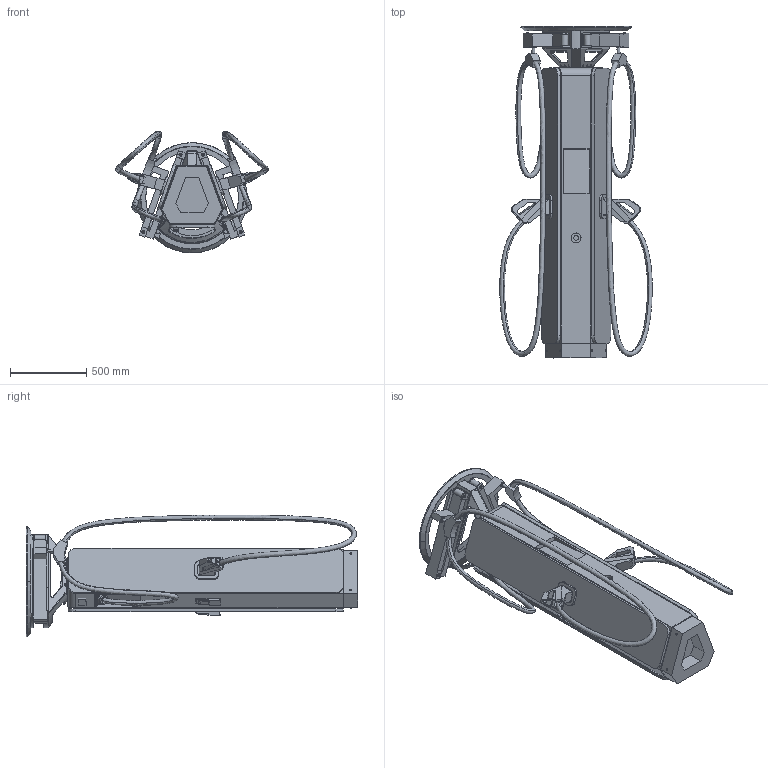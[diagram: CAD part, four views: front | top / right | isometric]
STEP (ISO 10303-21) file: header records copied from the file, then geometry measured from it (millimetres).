
FILE_DESCRIPTION((''),'2;1');
FILE_NAME('1758692950430_ASM','2025-09-24T11:19:33',('SESA617601'),('Schneider-Electric'),'CREO PARAMETRIC BY PTC INC, 2022484','CREO PARAMETRIC BY PTC INC, 2022484','');
FILE_SCHEMA(('AP242_MANAGED_MODEL_BASED_3D_ENGINEERING_MIM_LF { 1 0 10303 442 1 1 4 }'));
Products named in the file (18): EMPTYNODE_1758692950501_ASM; DP-15480; AJGFAS; DISPENSER-DC-720-3D_ASM; BREP_91_2; PRT0003_1; A000-586761_1_2_ASM_1_ASM; DISPENSER-5M-CABLE-3D_ASM; HANDLE-DC-3D; HANDLE-DC-3D_ASM; DP-3D; AJG; AJGFAS-3D; DISPENSER-TOP-5M-3D_ASM; DP-CABLE-3D; AJGFAS16LOCK; DISPENSER-TOP-CABLE-3D_ASM; 1758692950430_ASM
Assembly tree (46 placements, depth 4):
  1758692950430_ASM
    EMPTYNODE_1758692950501_ASM
    DISPENSER-DC-720-3D_ASM
      DP-15480
      AJGFAS  x6
    DISPENSER-5M-CABLE-3D_ASM
      A000-586761_1_2_ASM_1_ASM
        BREP_91_2
        PRT0003_1
    HANDLE-DC-3D_ASM  x2
      HANDLE-DC-3D
    DISPENSER-TOP-5M-3D_ASM
      DP-3D
      AJG  x12
      AJGFAS-3D  x6
    DISPENSER-TOP-CABLE-3D_ASM
      DP-CABLE-3D
      AJGFAS16LOCK  x8
Bounding box: 996.89 x 2170.23 x 796.19 mm (x, y, z)
Volume: 277049250.2 mm3; surface area: 9931539.7 mm2
Topology: 43 solids, 49 shells, 2311 faces, 5852 edges, 3768 vertices
Faces by surface type: plane 1317, cylinder 569, extrusion 216, cone 151, sphere 36, torus 18, bspline 4
Entity records: 99475 total; most frequent: CARTESIAN_POINT 60303, ORIENTED_EDGE 5574, DIRECTION 5251, PRESENTATION_STYLE_ASSIGNMENT 3080, STYLED_ITEM 2810, CURVE_STYLE 2795, EDGE_CURVE 2787, VECTOR 1897
